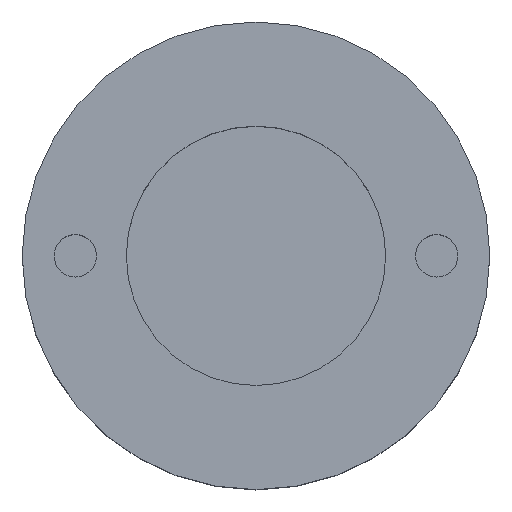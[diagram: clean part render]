
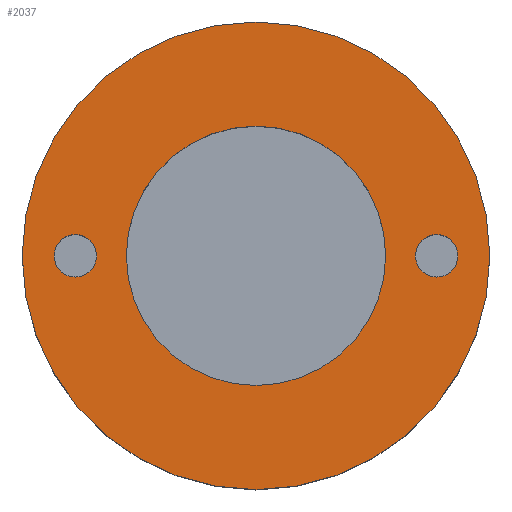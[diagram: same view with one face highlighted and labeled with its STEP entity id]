
A CAD part, top view. The second image highlights one B-rep face of the part: STEP entity #2037.
In plain terms, the highlighted planar face has unit normal (0, 0, 1).
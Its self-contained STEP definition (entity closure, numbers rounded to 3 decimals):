
#1968 = CYLINDRICAL_SURFACE('',#1969,5.5);
#1969 = AXIS2_PLACEMENT_3D('',#1970,#1971,#1972);
#1970 = CARTESIAN_POINT('',(0.,0.,13.4));
#1971 = DIRECTION('',(0.,0.,1.));
#1972 = DIRECTION('',(1.,0.,-0.));
#1986 = EDGE_CURVE('',#1987,#1987,#1989,.T.);
#1987 = VERTEX_POINT('',#1988);
#1988 = CARTESIAN_POINT('',(5.5,0.,17.9));
#1989 = SURFACE_CURVE('',#1990,(#1995,#2002),.PCURVE_S1.);
#1990 = CIRCLE('',#1991,5.5);
#1991 = AXIS2_PLACEMENT_3D('',#1992,#1993,#1994);
#1992 = CARTESIAN_POINT('',(0.,0.,17.9));
#1993 = DIRECTION('',(0.,0.,1.));
#1994 = DIRECTION('',(1.,0.,-0.));
#1995 = PCURVE('',#1968,#1996);
#1996 = DEFINITIONAL_REPRESENTATION('',(#1997),#2001);
#1997 = LINE('',#1998,#1999);
#1998 = CARTESIAN_POINT('',(0.,4.5));
#1999 = VECTOR('',#2000,1.);
#2000 = DIRECTION('',(1.,0.));
#2001 = ( GEOMETRIC_REPRESENTATION_CONTEXT(2) 
PARAMETRIC_REPRESENTATION_CONTEXT() REPRESENTATION_CONTEXT('2D SPACE',''
  ) );
#2002 = PCURVE('',#2003,#2008);
#2003 = PLANE('',#2004);
#2004 = AXIS2_PLACEMENT_3D('',#2005,#2006,#2007);
#2005 = CARTESIAN_POINT('',(0.,0.,17.9));
#2006 = DIRECTION('',(0.,0.,1.));
#2007 = DIRECTION('',(1.,0.,-0.));
#2008 = DEFINITIONAL_REPRESENTATION('',(#2009),#2013);
#2009 = CIRCLE('',#2010,5.5);
#2010 = AXIS2_PLACEMENT_2D('',#2011,#2012);
#2011 = CARTESIAN_POINT('',(0.,0.));
#2012 = DIRECTION('',(1.,0.));
#2013 = ( GEOMETRIC_REPRESENTATION_CONTEXT(2) 
PARAMETRIC_REPRESENTATION_CONTEXT() REPRESENTATION_CONTEXT('2D SPACE',''
  ) );
#2037 = ADVANCED_FACE('',(#2038,#2041,#2072,#2103),#2003,.T.);
#2038 = FACE_BOUND('',#2039,.T.);
#2039 = EDGE_LOOP('',(#2040));
#2040 = ORIENTED_EDGE('',*,*,#1986,.T.);
#2041 = FACE_BOUND('',#2042,.T.);
#2042 = EDGE_LOOP('',(#2043));
#2043 = ORIENTED_EDGE('',*,*,#2044,.F.);
#2044 = EDGE_CURVE('',#2045,#2045,#2047,.T.);
#2045 = VERTEX_POINT('',#2046);
#2046 = CARTESIAN_POINT('',(-3.75,0.,17.9));
#2047 = SURFACE_CURVE('',#2048,(#2053,#2060),.PCURVE_S1.);
#2048 = CIRCLE('',#2049,0.5);
#2049 = AXIS2_PLACEMENT_3D('',#2050,#2051,#2052);
#2050 = CARTESIAN_POINT('',(-4.25,0.,17.9));
#2051 = DIRECTION('',(0.,0.,1.));
#2052 = DIRECTION('',(1.,0.,-0.));
#2053 = PCURVE('',#2003,#2054);
#2054 = DEFINITIONAL_REPRESENTATION('',(#2055),#2059);
#2055 = CIRCLE('',#2056,0.5);
#2056 = AXIS2_PLACEMENT_2D('',#2057,#2058);
#2057 = CARTESIAN_POINT('',(-4.25,0.));
#2058 = DIRECTION('',(1.,0.));
#2059 = ( GEOMETRIC_REPRESENTATION_CONTEXT(2) 
PARAMETRIC_REPRESENTATION_CONTEXT() REPRESENTATION_CONTEXT('2D SPACE',''
  ) );
#2060 = PCURVE('',#2061,#2066);
#2061 = CYLINDRICAL_SURFACE('',#2062,0.5);
#2062 = AXIS2_PLACEMENT_3D('',#2063,#2064,#2065);
#2063 = CARTESIAN_POINT('',(-4.25,0.,15.9));
#2064 = DIRECTION('',(0.,0.,1.));
#2065 = DIRECTION('',(1.,0.,-0.));
#2066 = DEFINITIONAL_REPRESENTATION('',(#2067),#2071);
#2067 = LINE('',#2068,#2069);
#2068 = CARTESIAN_POINT('',(0.,2.));
#2069 = VECTOR('',#2070,1.);
#2070 = DIRECTION('',(1.,0.));
#2071 = ( GEOMETRIC_REPRESENTATION_CONTEXT(2) 
PARAMETRIC_REPRESENTATION_CONTEXT() REPRESENTATION_CONTEXT('2D SPACE',''
  ) );
#2072 = FACE_BOUND('',#2073,.T.);
#2073 = EDGE_LOOP('',(#2074));
#2074 = ORIENTED_EDGE('',*,*,#2075,.F.);
#2075 = EDGE_CURVE('',#2076,#2076,#2078,.T.);
#2076 = VERTEX_POINT('',#2077);
#2077 = CARTESIAN_POINT('',(3.05,0.,17.9));
#2078 = SURFACE_CURVE('',#2079,(#2084,#2091),.PCURVE_S1.);
#2079 = CIRCLE('',#2080,3.05);
#2080 = AXIS2_PLACEMENT_3D('',#2081,#2082,#2083);
#2081 = CARTESIAN_POINT('',(0.,0.,17.9));
#2082 = DIRECTION('',(0.,0.,1.));
#2083 = DIRECTION('',(1.,0.,-0.));
#2084 = PCURVE('',#2003,#2085);
#2085 = DEFINITIONAL_REPRESENTATION('',(#2086),#2090);
#2086 = CIRCLE('',#2087,3.05);
#2087 = AXIS2_PLACEMENT_2D('',#2088,#2089);
#2088 = CARTESIAN_POINT('',(0.,0.));
#2089 = DIRECTION('',(1.,0.));
#2090 = ( GEOMETRIC_REPRESENTATION_CONTEXT(2) 
PARAMETRIC_REPRESENTATION_CONTEXT() REPRESENTATION_CONTEXT('2D SPACE',''
  ) );
#2091 = PCURVE('',#2092,#2097);
#2092 = CYLINDRICAL_SURFACE('',#2093,3.05);
#2093 = AXIS2_PLACEMENT_3D('',#2094,#2095,#2096);
#2094 = CARTESIAN_POINT('',(0.,0.,15.4));
#2095 = DIRECTION('',(0.,0.,1.));
#2096 = DIRECTION('',(1.,0.,-0.));
#2097 = DEFINITIONAL_REPRESENTATION('',(#2098),#2102);
#2098 = LINE('',#2099,#2100);
#2099 = CARTESIAN_POINT('',(0.,2.5));
#2100 = VECTOR('',#2101,1.);
#2101 = DIRECTION('',(1.,0.));
#2102 = ( GEOMETRIC_REPRESENTATION_CONTEXT(2) 
PARAMETRIC_REPRESENTATION_CONTEXT() REPRESENTATION_CONTEXT('2D SPACE',''
  ) );
#2103 = FACE_BOUND('',#2104,.T.);
#2104 = EDGE_LOOP('',(#2105));
#2105 = ORIENTED_EDGE('',*,*,#2106,.F.);
#2106 = EDGE_CURVE('',#2107,#2107,#2109,.T.);
#2107 = VERTEX_POINT('',#2108);
#2108 = CARTESIAN_POINT('',(4.75,0.,17.9));
#2109 = SURFACE_CURVE('',#2110,(#2115,#2122),.PCURVE_S1.);
#2110 = CIRCLE('',#2111,0.5);
#2111 = AXIS2_PLACEMENT_3D('',#2112,#2113,#2114);
#2112 = CARTESIAN_POINT('',(4.25,0.,17.9));
#2113 = DIRECTION('',(0.,0.,1.));
#2114 = DIRECTION('',(1.,0.,-0.));
#2115 = PCURVE('',#2003,#2116);
#2116 = DEFINITIONAL_REPRESENTATION('',(#2117),#2121);
#2117 = CIRCLE('',#2118,0.5);
#2118 = AXIS2_PLACEMENT_2D('',#2119,#2120);
#2119 = CARTESIAN_POINT('',(4.25,0.));
#2120 = DIRECTION('',(1.,0.));
#2121 = ( GEOMETRIC_REPRESENTATION_CONTEXT(2) 
PARAMETRIC_REPRESENTATION_CONTEXT() REPRESENTATION_CONTEXT('2D SPACE',''
  ) );
#2122 = PCURVE('',#2123,#2128);
#2123 = CYLINDRICAL_SURFACE('',#2124,0.5);
#2124 = AXIS2_PLACEMENT_3D('',#2125,#2126,#2127);
#2125 = CARTESIAN_POINT('',(4.25,0.,15.9));
#2126 = DIRECTION('',(0.,0.,1.));
#2127 = DIRECTION('',(1.,0.,-0.));
#2128 = DEFINITIONAL_REPRESENTATION('',(#2129),#2133);
#2129 = LINE('',#2130,#2131);
#2130 = CARTESIAN_POINT('',(0.,2.));
#2131 = VECTOR('',#2132,1.);
#2132 = DIRECTION('',(1.,0.));
#2133 = ( GEOMETRIC_REPRESENTATION_CONTEXT(2) 
PARAMETRIC_REPRESENTATION_CONTEXT() REPRESENTATION_CONTEXT('2D SPACE',''
  ) );
